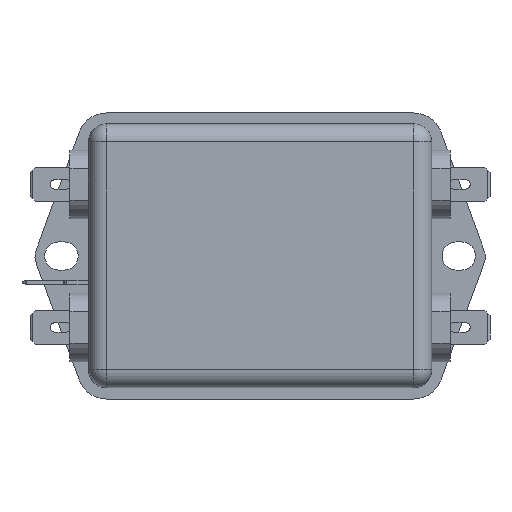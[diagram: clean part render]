
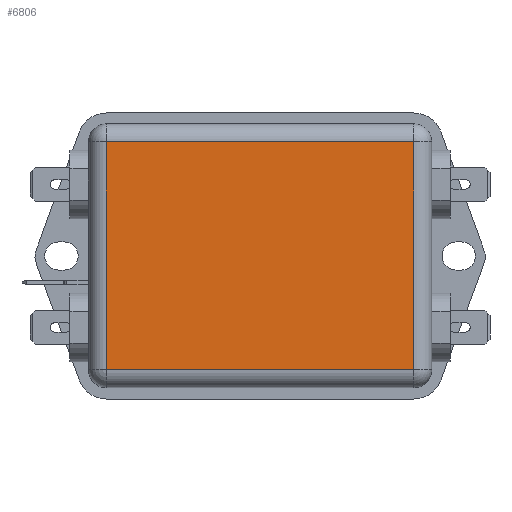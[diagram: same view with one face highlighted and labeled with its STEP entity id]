
A CAD part, top view. The second image highlights one B-rep face of the part: STEP entity #6806.
In plain terms, the highlighted planar face has unit normal (0, 0, 1).
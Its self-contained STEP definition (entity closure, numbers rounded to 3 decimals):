
#6583=CARTESIAN_POINT('',(-29.0,-21.5,0.0));
#6584=VERTEX_POINT('',#6583);
#6640=CARTESIAN_POINT('',(-29.0,21.5,0.0));
#6641=VERTEX_POINT('',#6640);
#6642=CARTESIAN_POINT('',(-29.0,-21.5,0.0));
#6643=DIRECTION('',(0.0,1.0,0.0));
#6644=VECTOR('',#6643,43.);
#6645=LINE('',#6642,#6644);
#6646=EDGE_CURVE('',#6584,#6641,#6645,.T.);
#6682=CARTESIAN_POINT('',(29.,21.5,0.0));
#6683=VERTEX_POINT('',#6682);
#6707=CARTESIAN_POINT('',(29.,-21.5,0.0));
#6708=VERTEX_POINT('',#6707);
#6709=CARTESIAN_POINT('',(29.,21.5,0.0));
#6710=DIRECTION('',(0.0,-1.0,0.0));
#6711=VECTOR('',#6710,43.0);
#6712=LINE('',#6709,#6711);
#6713=EDGE_CURVE('',#6683,#6708,#6712,.T.);
#6769=CARTESIAN_POINT('',(29.,-21.5,0.0));
#6770=DIRECTION('',(-1.0,0.0,0.0));
#6771=VECTOR('',#6770,58.);
#6772=LINE('',#6769,#6771);
#6773=EDGE_CURVE('',#6708,#6584,#6772,.T.);
#6784=CARTESIAN_POINT('',(-29.,21.5,0.0));
#6785=DIRECTION('',(1.0,0.0,0.0));
#6786=VECTOR('',#6785,58.0);
#6787=LINE('',#6784,#6786);
#6788=EDGE_CURVE('',#6641,#6683,#6787,.T.);
#6795=CARTESIAN_POINT('',(0.,0.,0.0));
#6796=DIRECTION('',(0.0,0.0,1.0));
#6797=DIRECTION('',(1.0,0.0,0.0));
#6798=AXIS2_PLACEMENT_3D('',#6795,#6796,#6797);
#6799=PLANE('',#6798);
#6800=ORIENTED_EDGE('',*,*,#6788,.F.);
#6801=ORIENTED_EDGE('',*,*,#6646,.F.);
#6802=ORIENTED_EDGE('',*,*,#6773,.F.);
#6803=ORIENTED_EDGE('',*,*,#6713,.F.);
#6804=EDGE_LOOP('',(#6800,#6801,#6802,#6803));
#6805=FACE_OUTER_BOUND('',#6804,.T.);
#6806=ADVANCED_FACE('',(#6805),#6799,.T.);
